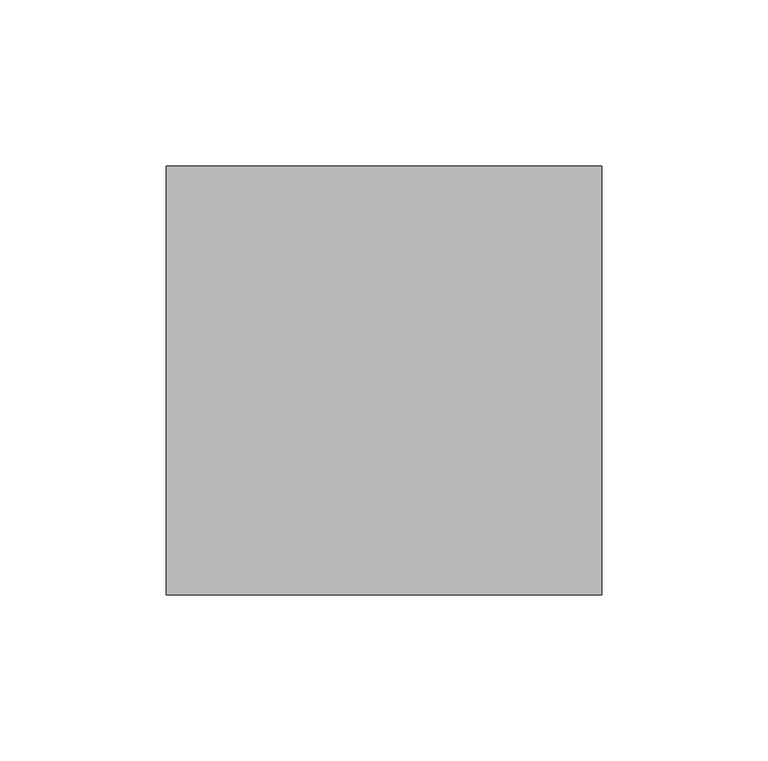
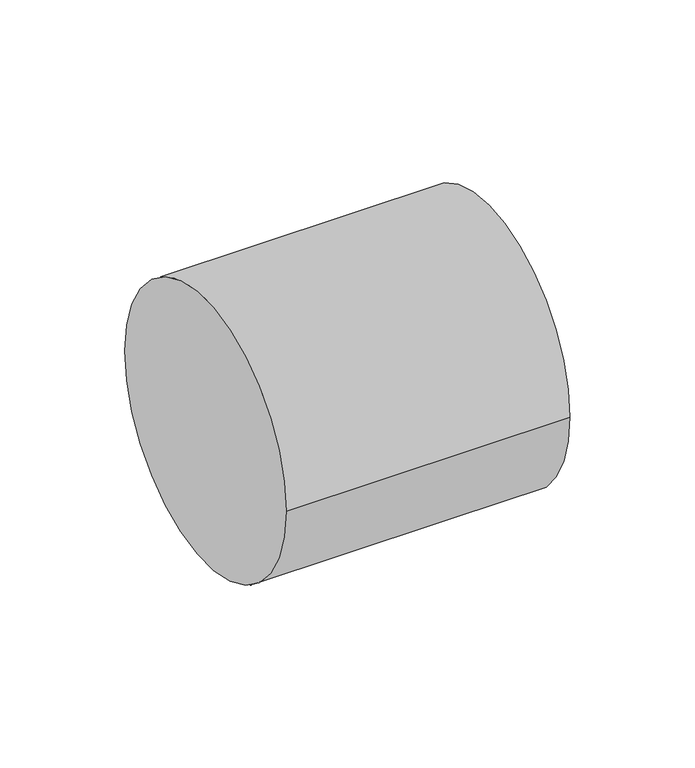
"""IFC4 building model written with IfcOpenShell, lengths in millimetres: pipe fitting geometry, 01051005 : Uniao Simples."""

import ifcopenshell
import ifcopenshell.guid

model = None  # the IFC model being written
_history = None  # IfcOwnerHistory: only IFC2X3 demands one
_inside = {}  # id of a spatial element -> (the spatial element, [elements in it])
_under = {}  # id of a project, library or spatial element -> (it, [spatial elements below it])
_declared = {}  # id of a project -> (the project, [libraries it declares])
_typed = {}  # id of a type object -> (the type object, [elements of that type])
_made_of = {}  # id of a material, layer set ... -> (it, [elements and type objects made of it])


def new_model(schema):
    """Start an empty IFC model of exactly this schema.

    Asked for "IFC4X3", IfcOpenShell would pick the latest addendum, in which some entities
    have other attributes; the version numbers below select the first issue.
    IFC2X3 requires an IfcOwnerHistory on every rooted entity: one is made here for all.
    """
    global model, _history
    if schema == "IFC4X3":
        model = ifcopenshell.file(schema_version=(4, 3, 0, 0))
    else:
        model = ifcopenshell.file(schema=schema)
    _inside.clear()
    _under.clear()
    _declared.clear()
    _typed.clear()
    _made_of.clear()
    _history = None
    if model.schema == "IFC2X3":
        org = make("IfcOrganization", Name="unknown")
        user = make(
            "IfcPersonAndOrganization",
            ThePerson=make("IfcPerson", FamilyName="unknown"),
            TheOrganization=org,
        )
        app = make(
            "IfcApplication",
            ApplicationDeveloper=org,
            Version="unknown",
            ApplicationFullName="unknown",
            ApplicationIdentifier="unknown",
        )
        _history = make(
            "IfcOwnerHistory",
            OwningUser=user,
            OwningApplication=app,
            ChangeAction="ADDED",
            CreationDate=0,
        )
    return model


def make(cls, **values):
    """One entity of the class cls with the attributes given. An attribute that is None is left unset."""
    return model.create_entity(
        cls, **{name: value for name, value in values.items() if value is not None}
    )


def rooted(cls, **values):
    """An entity with a GlobalId (a new one), such as an element, a storey or a relation."""
    return make(cls, GlobalId=ifcopenshell.guid.new(), OwnerHistory=_history, **values)


def si_unit(unit_type, name, prefix=None):
    """IfcSIUnit, for example si_unit("LENGTHUNIT", "METRE", prefix="MILLI")."""
    return make("IfcSIUnit", UnitType=unit_type, Prefix=prefix, Name=name)


def assignment(units):
    """IfcUnitAssignment: the units of a project."""
    return None if units is None else make("IfcUnitAssignment", Units=units)


def point(xyz):
    """IfcCartesianPoint."""
    return None if xyz is None else make("IfcCartesianPoint", Coordinates=xyz)


def direction(xyz):
    """IfcDirection."""
    return None if xyz is None else make("IfcDirection", DirectionRatios=xyz)


def frame(location, z_axis=None, x_axis=None):
    """IfcAxis2Placement3D, a coordinate frame: its origin and axes. An axis left out is left unset."""
    return make(
        "IfcAxis2Placement3D",
        Location=point(location),
        Axis=direction(z_axis),
        RefDirection=direction(x_axis),
    )


def frame_2d(location, x_axis=None):
    """IfcAxis2Placement2D, a coordinate frame in the plane: its origin and x axis."""
    return make(
        "IfcAxis2Placement2D", Location=point(location), RefDirection=direction(x_axis)
    )


def origin():
    """The frame at (0, 0, 0) with its axes left unset."""
    return frame((0.0, 0.0, 0.0))


def origin_2d():
    """The frame at (0, 0) in the plane with its x axis left unset."""
    return frame_2d((0.0, 0.0))


def place(relative_to, where):
    """IfcLocalPlacement: puts the frame where relative to a parent placement (None: the world)."""
    return make(
        "IfcLocalPlacement", PlacementRelTo=relative_to, RelativePlacement=where
    )


def context(
    kind, dimensions, precision=None, world=None, true_north=None, identifier=None
):
    """IfcGeometricRepresentationContext, for example the 3D "Model" context."""
    return make(
        "IfcGeometricRepresentationContext",
        ContextIdentifier=identifier,
        ContextType=kind,
        CoordinateSpaceDimension=dimensions,
        Precision=precision,
        WorldCoordinateSystem=world,
        TrueNorth=true_north,
    )


def project(units=None, contexts=None):
    """IfcProject with its units and contexts."""
    return rooted(
        "IfcProject",
        Name="project",
        RepresentationContexts=contexts,
        UnitsInContext=assignment(units),
    )


def spatial(cls, under=None, at=None, **own):
    """A site, building, storey or space (cls), placed at a placement, below another one or the project."""
    s = rooted(cls, ObjectPlacement=at, **own)
    if under is not None:
        _under.setdefault(under.id(), (under, []))[1].append(s)
    return s


def circle_curve(where, radius):
    """IfcCircle in the frame where."""
    return make("IfcCircle", Position=where, Radius=radius)


def trimmed(basis, trim1, trim2, sense, master):
    """IfcTrimmedCurve: the piece of a basis curve between two trims."""
    return make(
        "IfcTrimmedCurve",
        BasisCurve=basis,
        Trim1=trim1,
        Trim2=trim2,
        SenseAgreement=sense,
        MasterRepresentation=master,
    )


def segment(curve, same_sense, transition):
    """IfcCompositeCurveSegment."""
    return make(
        "IfcCompositeCurveSegment",
        Transition=transition,
        SameSense=same_sense,
        ParentCurve=curve,
    )


def composite_curve(segments, self_intersect=None):
    """IfcCompositeCurve: segments joined end to end."""
    return make("IfcCompositeCurve", Segments=segments, SelfIntersect=self_intersect)


def outline(outer, holes=None, kind="AREA"):
    """IfcArbitraryClosedProfileDef: a profile drawn as a closed curve; with holes, ...WithVoids."""
    if holes is None:
        return make("IfcArbitraryClosedProfileDef", ProfileType=kind, OuterCurve=outer)
    return make(
        "IfcArbitraryProfileDefWithVoids",
        ProfileType=kind,
        OuterCurve=outer,
        InnerCurves=holes,
    )


def extrude(swept, where, along, depth):
    """IfcExtrudedAreaSolid: the profile swept, set in the frame where, extruded along a direction by depth."""
    return make(
        "IfcExtrudedAreaSolid",
        SweptArea=swept,
        Position=where,
        ExtrudedDirection=direction(along),
        Depth=depth,
    )


def shape(context_of_items, identifier, shape_type, items):
    """IfcShapeRepresentation: the items that make up one representation, for example the "Body"."""
    return make(
        "IfcShapeRepresentation",
        ContextOfItems=context_of_items,
        RepresentationIdentifier=identifier,
        RepresentationType=shape_type,
        Items=items,
    )


def source(mapping_origin, context_of_items, identifier, shape_type, items):
    """IfcRepresentationMap: a shape defined once, which mapped items show again and again."""
    return make(
        "IfcRepresentationMap",
        MappingOrigin=mapping_origin,
        MappedRepresentation=shape(context_of_items, identifier, shape_type, items),
    )


def transform(
    local_origin,
    x_axis=None,
    y_axis=None,
    z_axis=None,
    scale=None,
    scale2=None,
    scale3=None,
    uniform=True,
):
    """IfcCartesianTransformationOperator3D, or its non-uniform kind. x_axis, y_axis, z_axis: its Axis1, 2, 3."""
    if uniform:
        return make(
            "IfcCartesianTransformationOperator3D",
            Axis1=direction(x_axis),
            Axis2=direction(y_axis),
            LocalOrigin=point(local_origin),
            Scale=scale,
            Axis3=direction(z_axis),
        )
    return make(
        "IfcCartesianTransformationOperator3DnonUniform",
        Axis1=direction(x_axis),
        Axis2=direction(y_axis),
        LocalOrigin=point(local_origin),
        Scale=scale,
        Axis3=direction(z_axis),
        Scale2=scale2,
        Scale3=scale3,
    )


def mapped(mapping_source, mapping_target):
    """IfcMappedItem: shows the shape of a source again, moved by a transform."""
    return make(
        "IfcMappedItem", MappingSource=mapping_source, MappingTarget=mapping_target
    )


def made_of(thing, what):
    """Note that an element or type object is made of a material, layer set ...; save() writes the relation."""
    if what is not None:
        _made_of.setdefault(what.id(), (what, []))[1].append(thing)
    return thing


def element(
    cls,
    number,
    at=None,
    inside=None,
    cuts=None,
    type_object=None,
    material=None,
    context=None,
    identifier="Body",
    shape_type=None,
    held_by="IfcProductDefinitionShape",
    body=None,
    shapes=None,
    **own,
):
    """One element of the class cls, such as IfcWall. Its Tag is "e" and its number.

    at: its placement. inside: the storey or other place that contains it. cuts: it is an
    opening in that element (IfcRelVoidsElement). A single representation is given by context,
    identifier, shape_type and body (its items); several are given by shapes. held_by: the class
    of the entity that holds the representations. save() writes the other relations.
    """
    e = rooted(cls, Tag="e%d" % number, ObjectPlacement=at, **own)
    if body is not None:
        shapes = [shape(context, identifier, shape_type, body)]
    if shapes is not None:
        e.Representation = make(held_by, Representations=shapes)
    if inside is not None:
        _inside.setdefault(inside.id(), (inside, []))[1].append(e)
    if cuts is not None:
        rooted(
            "IfcRelVoidsElement", RelatingBuildingElement=cuts, RelatedOpeningElement=e
        )
    if type_object is not None:
        _typed.setdefault(type_object.id(), (type_object, []))[1].append(e)
    return made_of(e, material)


def aggregate(whole, parts):
    """IfcRelAggregates: a whole, such as a stair, and the parts it consists of."""
    return rooted("IfcRelAggregates", RelatingObject=whole, RelatedObjects=parts)


def save(model, path):
    """Write the relations noted so far, then the file.

    IfcRelAggregates (storeys below a building ...), IfcRelContainedInSpatialStructure (elements
    in a storey), IfcRelDefinesByType, IfcRelAssociatesMaterial and IfcRelDeclares: one each for
    every whole, place, type object, material and project.
    """
    for whole, parts in _under.values():
        aggregate(whole, parts)
    for where, things in _inside.values():
        rooted(
            "IfcRelContainedInSpatialStructure",
            RelatedElements=things,
            RelatingStructure=where,
        )
    for kind, things in _typed.values():
        rooted("IfcRelDefinesByType", RelatedObjects=things, RelatingType=kind)
    for what, things in _made_of.values():
        rooted("IfcRelAssociatesMaterial", RelatedObjects=things, RelatingMaterial=what)
    for by, libraries in _declared.values():
        rooted("IfcRelDeclares", RelatingContext=by, RelatedDefinitions=libraries)
    model.write(path)


def pipe_fitting_7e2d885b(model_context):
    return source(origin(), model_context, "Body", "SweptSolid", [
        extrude(outline(composite_curve([segment(trimmed(circle_curve(origin_2d(), 64.5), [point((-64.5, 0.0))], [point((64.5, 0.0))], False, "CARTESIAN"), True, "CONTINUOUS"), segment(trimmed(circle_curve(origin_2d(), 64.5), [point((64.5, 0.0))], [point((-64.5, 0.0))], False, "CARTESIAN"), True, "CONTINUOUS")], self_intersect=False)), frame((-65.5, 0.0, 0.0), z_axis=(1.0, 0.0, 0.0), x_axis=(0.0, 1.0, 0.0)), (0.0, 0.0, 1.0), 131.0),
    ])


if __name__ == "__main__":
    model = new_model("IFC4")
    model_context = context("Model", 3, world=origin())
    ifc_project = project(units=[si_unit("LENGTHUNIT", "METRE", prefix="MILLI")], contexts=[model_context])
    site = spatial("IfcSite", under=ifc_project)
    building = spatial("IfcBuilding", under=site)
    placement = place(None, origin())
    pipe_fitting_shape = pipe_fitting_7e2d885b(model_context)
    element("IfcPipeFitting", 1, ObjectType="01051005 : Uniao Simples", at=placement, inside=building, context=model_context, shape_type="MappedRepresentation", body=[
        mapped(pipe_fitting_shape, transform((0.0, 0.0, 0.0), x_axis=(1.0, 0.0, 0.0), y_axis=(0.0, 1.0, 0.0), z_axis=(0.0, 0.0, 1.0))),
    ])
    save(model, "model.ifc")
